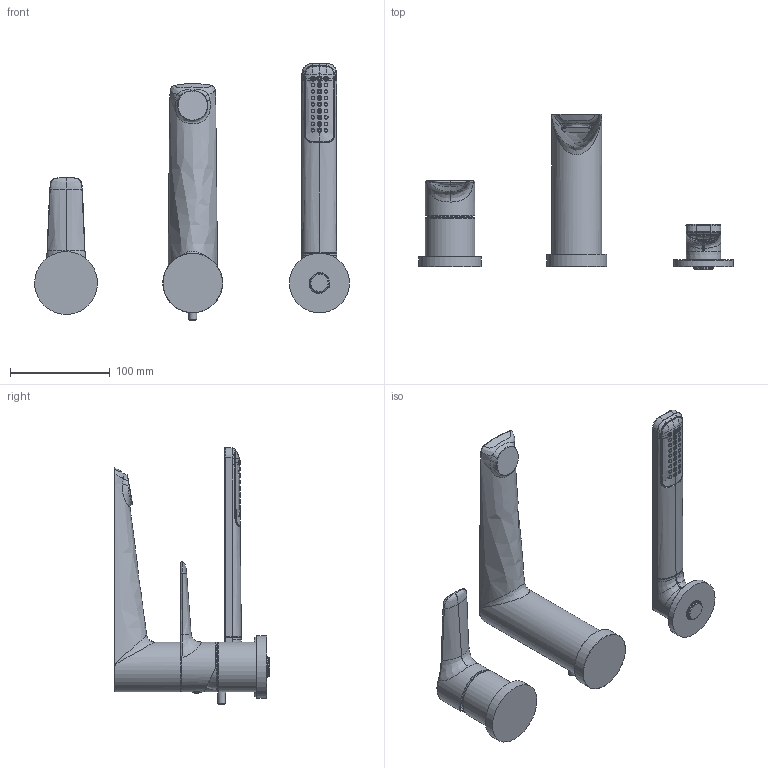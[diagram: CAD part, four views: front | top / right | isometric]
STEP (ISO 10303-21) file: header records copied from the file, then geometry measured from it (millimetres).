
FILE_DESCRIPTION(/* description */ (''),/* implementation_level */ '2;1');
FILE_NAME(/* name */ 'X:\Utilisateurs\Francois\DJ10 3D.stp',/* time_stamp */ '2017-01-16T14:16:14-05:00',/* author */ ('francoisj'),/* organization */ (''),/* preprocessor_version */ 'ST-DEVELOPER v15.6',/* originating_system */ 'Autodesk Inventor 2015',/* authorisation */ '');
FILE_SCHEMA (('CONFIG_CONTROL_DESIGN'));
Length unit declared in the file: millimetre
Products named in the file (1): DJ10_Shrinkwrap_1
Bounding box: 315.49 x 155.5 x 257.64 mm (x, y, z)
Volume: 781926.5 mm3; surface area: 141441.7 mm2
Topology: 9 solids, 10 shells, 1738 faces, 4336 edges, 2596 vertices
Faces by surface type: bspline 835, cylinder 342, plane 340, cone 141, torus 48, sphere 32
Full cylindrical faces by diameter (mm): 1.6 x2, 4.5 x1, 8 x1, 18.3 x1, 27.776 x1, 27.8 x2, 30.4 x2, 31 x1, 46 x1, 50 x3, 60 x2, 63 x1
Entity records: 137156 total; most frequent: CARTESIAN_POINT 100345, ORIENTED_EDGE 8276, DIRECTION 5628, EDGE_CURVE 4135, VERTEX_POINT 2550, AXIS2_PLACEMENT_3D 2215, EDGE_LOOP 1946, STYLED_ITEM 1746
